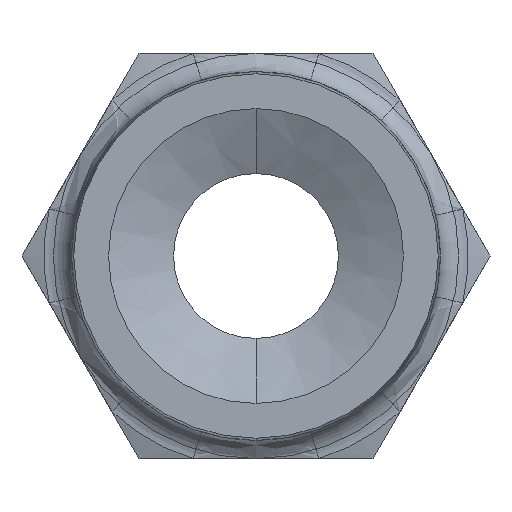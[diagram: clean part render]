
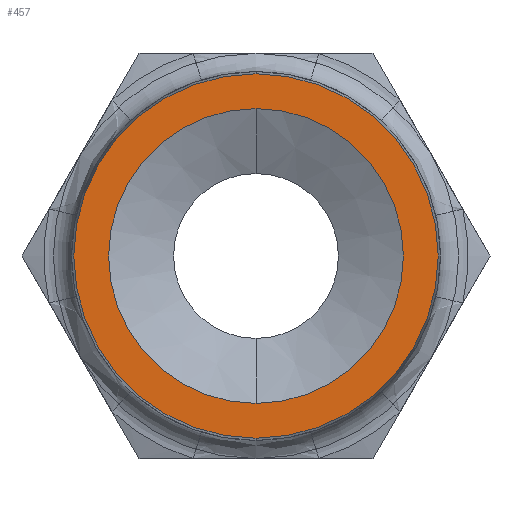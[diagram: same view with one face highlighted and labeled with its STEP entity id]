
A CAD part, left-side view. The second image highlights one B-rep face of the part: STEP entity #457.
In plain terms, the highlighted planar face has unit normal (-1, 0, 0).
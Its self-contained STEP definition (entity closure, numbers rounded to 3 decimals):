
#5 = EDGE_CURVE ( 'NONE', #6, #13, #754, .T. ) ;
#6 = VERTEX_POINT ( 'NONE', #749 ) ;
#13 = VERTEX_POINT ( 'NONE', #736 ) ;
#27 = VERTEX_POINT ( 'NONE', #882 ) ;
#28 = VERTEX_POINT ( 'NONE', #881 ) ;
#184 = EDGE_CURVE ( 'NONE', #27, #28, #1194, .T. ) ;
#457 = ADVANCED_FACE ( 'NONE', ( #2500, #2499 ), #2498, .T. ) ;
#458 = EDGE_LOOP ( 'NONE', ( #459, #461 ) ) ;
#459 = ORIENTED_EDGE ( 'NONE', *, *, #460, .T. ) ;
#460 = EDGE_CURVE ( 'NONE', #13, #6, #2492, .T. ) ;
#461 = ORIENTED_EDGE ( 'NONE', *, *, #5, .T. ) ;
#462 = EDGE_LOOP ( 'NONE', ( #463, #500 ) ) ;
#463 = ORIENTED_EDGE ( 'NONE', *, *, #464, .F. ) ;
#464 = EDGE_CURVE ( 'NONE', #28, #27, #2488, .T. ) ;
#500 = ORIENTED_EDGE ( 'NONE', *, *, #184, .F. ) ;
#736 = CARTESIAN_POINT ( 'NONE',  ( -25.2, 0., 7.849 ) ) ;
#749 = CARTESIAN_POINT ( 'NONE',  ( -25.2, 0., -7.849 ) ) ;
#750 = DIRECTION ( 'NONE',  ( 0., 0., 1. ) ) ;
#751 = DIRECTION ( 'NONE',  ( -1., 0., 0. ) ) ;
#752 = CARTESIAN_POINT ( 'NONE',  ( -25.2, 0., 0. ) ) ;
#753 = AXIS2_PLACEMENT_3D ( 'NONE', #752, #751, #750 ) ;
#754 = CIRCLE ( 'NONE', #753, 7.849 ) ;
#881 = CARTESIAN_POINT ( 'NONE',  ( -25.2, 0., 6.35 ) ) ;
#882 = CARTESIAN_POINT ( 'NONE',  ( -25.2, 0., -6.35 ) ) ;
#1190 = DIRECTION ( 'NONE',  ( 0., 0., 1. ) ) ;
#1191 = DIRECTION ( 'NONE',  ( -1., 0., 0. ) ) ;
#1192 = CARTESIAN_POINT ( 'NONE',  ( -25.2, 0., 0. ) ) ;
#1193 = AXIS2_PLACEMENT_3D ( 'NONE', #1192, #1191, #1190 ) ;
#1194 = CIRCLE ( 'NONE', #1193, 6.35 ) ;
#2484 = DIRECTION ( 'NONE',  ( 0., 0., 1. ) ) ;
#2485 = DIRECTION ( 'NONE',  ( -1., 0., 0. ) ) ;
#2486 = CARTESIAN_POINT ( 'NONE',  ( -25.2, 0., 0. ) ) ;
#2487 = AXIS2_PLACEMENT_3D ( 'NONE', #2486, #2485, #2484 ) ;
#2488 = CIRCLE ( 'NONE', #2487, 6.35 ) ;
#2489 = DIRECTION ( 'NONE',  ( 0., 0., 1. ) ) ;
#2490 = DIRECTION ( 'NONE',  ( -1., 0., 0. ) ) ;
#2491 = AXIS2_PLACEMENT_3D ( 'NONE', #2496, #2490, #2489 ) ;
#2492 = CIRCLE ( 'NONE', #2491, 7.849 ) ;
#2493 = DIRECTION ( 'NONE',  ( 0., 0., 1. ) ) ;
#2494 = DIRECTION ( 'NONE',  ( -1., 0., 0. ) ) ;
#2495 = AXIS2_PLACEMENT_3D ( 'NONE', #2497, #2494, #2493 ) ;
#2496 = CARTESIAN_POINT ( 'NONE',  ( -25.2, 0., 0. ) ) ;
#2497 = CARTESIAN_POINT ( 'NONE',  ( -25.2, 0., 0. ) ) ;
#2498 = PLANE ( 'NONE',  #2495 ) ;
#2499 = FACE_BOUND ( 'NONE', #462, .T. ) ;
#2500 = FACE_OUTER_BOUND ( 'NONE', #458, .T. ) ;
